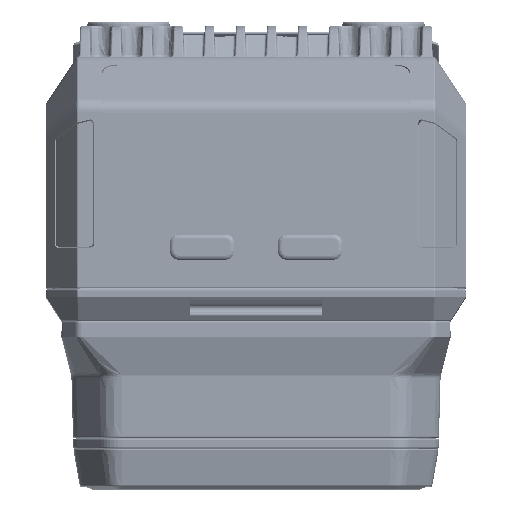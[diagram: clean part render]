
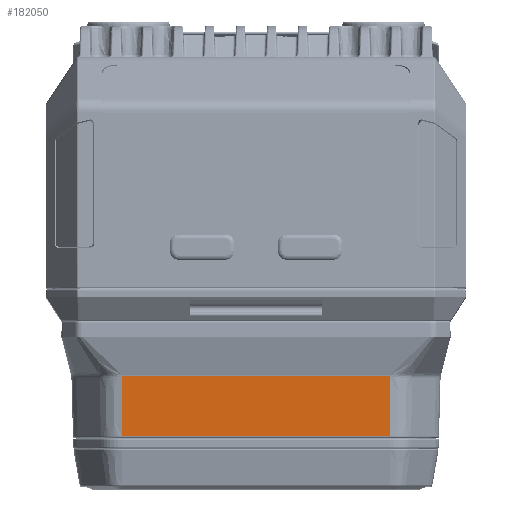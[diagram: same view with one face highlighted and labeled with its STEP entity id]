
A CAD part, top view. The second image highlights one B-rep face of the part: STEP entity #182050.
In plain terms, the highlighted planar face has unit normal (0, -0.026, 1).
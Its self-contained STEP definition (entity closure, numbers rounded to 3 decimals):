
#169810=DIRECTION('',(-1.,0.,0.));
#169811=VECTOR('',#169810,34.418);
#169812=CARTESIAN_POINT('',(17.209,-14.805,
36.296));
#169813=LINE('',#169812,#169811);
#169814=DIRECTION('',(0.,1.,0.026));
#169815=VECTOR('',#169814,7.695);
#169816=CARTESIAN_POINT('',(-17.209,-14.805,
36.296));
#169817=LINE('',#169816,#169815);
#169818=DIRECTION('',(-1.,0.,0.));
#169819=VECTOR('',#169818,34.418);
#169820=CARTESIAN_POINT('',(17.209,-7.113,
36.497));
#169821=LINE('',#169820,#169819);
#169827=DIRECTION('',(0.,1.,0.026));
#169828=VECTOR('',#169827,7.695);
#169829=CARTESIAN_POINT('',(17.209,-14.805,
36.296));
#169830=LINE('',#169829,#169828);
#169836=CARTESIAN_POINT('',(17.209,-7.113,
36.497));
#174648=VERTEX_POINT('',#169836);
#174651=CARTESIAN_POINT('',(-17.209,-7.113,
36.497));
#174652=VERTEX_POINT('',#174651);
#175361=CARTESIAN_POINT('',(17.209,-14.805,
36.296));
#175362=VERTEX_POINT('',#175361);
#175365=CARTESIAN_POINT('',(-17.209,-14.805,
36.296));
#175366=VERTEX_POINT('',#175365);
#182037=CARTESIAN_POINT('',(17.329,-7.,36.5));
#182038=DIRECTION('',(0.,-0.026,1.));
#182039=DIRECTION('',(-1.,0.,0.));
#182040=AXIS2_PLACEMENT_3D('',#182037,#182038,#182039);
#182041=PLANE('',#182040);
#182043=ORIENTED_EDGE('',*,*,#182042,.F.);
#182044=ORIENTED_EDGE('',*,*,#181911,.T.);
#182045=ORIENTED_EDGE('',*,*,#182024,.T.);
#182047=ORIENTED_EDGE('',*,*,#182046,.F.);
#182048=EDGE_LOOP('',(#182043,#182044,#182045,#182047));
#182049=FACE_OUTER_BOUND('',#182048,.F.);
#181911=EDGE_CURVE('',#175362,#175366,#169813,.T.);
#182024=EDGE_CURVE('',#175366,#174652,#169817,.T.);
#182042=EDGE_CURVE('',#175362,#174648,#169830,.T.);
#182046=EDGE_CURVE('',#174648,#174652,#169821,.T.);
#182050=ADVANCED_FACE('',(#182049),#182041,.T.);
